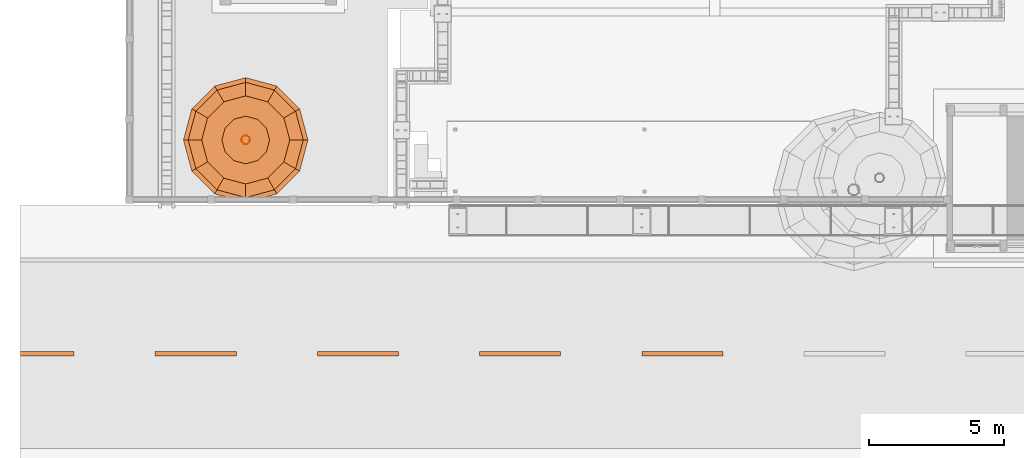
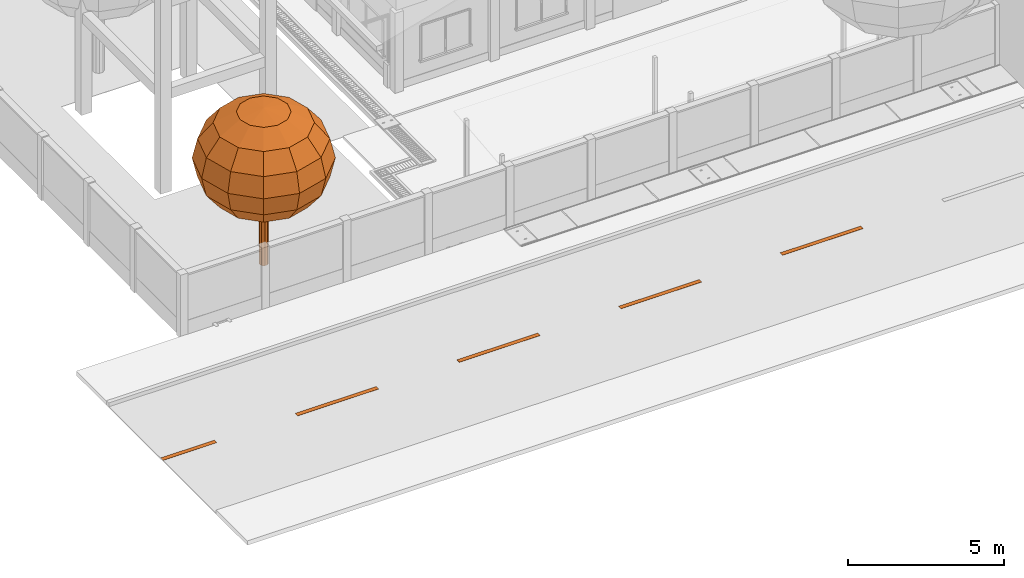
# One storey, part 145 of 166: 7 proxies.
"""IFC2X3 building model written with IfcOpenShell, lengths in metres."""

from ifc_helpers import new_model, si_unit, origin, origin_with_axes, place, context, subcontext, project, spatial, faceted_brep, element, save


model = new_model("IFC2X3")

# Units and contexts
model_context = context("Model", 3, precision=1e-05, world=origin_with_axes())
body_context = subcontext(model_context, "Body", "Model", "MODEL_VIEW")
ifc_project = project(units=[si_unit("LENGTHUNIT", "METRE"), si_unit("AREAUNIT", "SQUARE_METRE"), si_unit("VOLUMEUNIT", "CUBIC_METRE"), si_unit("PLANEANGLEUNIT", "RADIAN")], contexts=[model_context])

# Site, building, storey
site_placement = place(None, origin_with_axes())
site = spatial("IfcSite", under=ifc_project, at=site_placement, Name="Predio Los Mangos - Morales, San Martín", CompositionType="ELEMENT")
building_placement = place(site_placement, origin())
building = spatial("IfcBuilding", under=site, at=building_placement, Name="Hogar de Refugio Temporal", CompositionType="ELEMENT")
storey_placement = place(building_placement, origin())
storey = spatial("IfcBuildingStorey", under=building, at=storey_placement, Name="NIVEL 1 (NPT +0.00)", CompositionType="ELEMENT", Elevation=0.0)

# Proxies
proxy_1_placement = place(storey_placement, origin())
element("IfcBuildingElementProxy", 1, at=proxy_1_placement, inside=storey, Name="linea_carril", ObjectType="Losa deportiva y vía", context=body_context, shape_type="Brep", body=[
    faceted_brep([(-3.0, 12.22, 0.02), (-3.0, 12.38, 0.02), (-1.0, 12.38, 0.02), (-1.0, 12.22, 0.02), (-3.0, 12.22, 0.025), (-1.0, 12.22, 0.025), (-1.0, 12.38, 0.025), (-3.0, 12.38, 0.025)], [[[0, 1, 2, 3]], [[4, 5, 6, 7]], [[0, 3, 5, 4]], [[3, 2, 6, 5]], [[2, 1, 7, 6]], [[1, 0, 4, 7]]]),
])
proxy_2_placement = place(storey_placement, origin())
element("IfcBuildingElementProxy", 2, at=proxy_2_placement, inside=storey, Name="linea_carril", ObjectType="Losa deportiva y vía", context=body_context, shape_type="Brep", body=[
    faceted_brep([(2.0, 12.22, 0.02), (2.0, 12.38, 0.02), (5.0, 12.38, 0.02), (5.0, 12.22, 0.02), (2.0, 12.22, 0.025), (5.0, 12.22, 0.025), (5.0, 12.38, 0.025), (2.0, 12.38, 0.025)], [[[0, 1, 2, 3]], [[4, 5, 6, 7]], [[0, 3, 5, 4]], [[3, 2, 6, 5]], [[2, 1, 7, 6]], [[1, 0, 4, 7]]]),
])
proxy_3_placement = place(storey_placement, origin())
element("IfcBuildingElementProxy", 3, at=proxy_3_placement, inside=storey, Name="linea_carril", ObjectType="Losa deportiva y vía", context=body_context, shape_type="Brep", body=[
    faceted_brep([(8.0, 12.22, 0.02), (8.0, 12.38, 0.02), (11.0, 12.38, 0.02), (11.0, 12.22, 0.02), (8.0, 12.22, 0.025), (11.0, 12.22, 0.025), (11.0, 12.38, 0.025), (8.0, 12.38, 0.025)], [[[0, 1, 2, 3]], [[4, 5, 6, 7]], [[0, 3, 5, 4]], [[3, 2, 6, 5]], [[2, 1, 7, 6]], [[1, 0, 4, 7]]]),
])
proxy_4_placement = place(storey_placement, origin())
element("IfcBuildingElementProxy", 4, at=proxy_4_placement, inside=storey, Name="linea_carril", ObjectType="Losa deportiva y vía", context=body_context, shape_type="Brep", body=[
    faceted_brep([(14.0, 12.22, 0.02), (14.0, 12.38, 0.02), (17.0, 12.38, 0.02), (17.0, 12.22, 0.02), (14.0, 12.22, 0.025), (17.0, 12.22, 0.025), (17.0, 12.38, 0.025), (14.0, 12.38, 0.025)], [[[0, 1, 2, 3]], [[4, 5, 6, 7]], [[0, 3, 5, 4]], [[3, 2, 6, 5]], [[2, 1, 7, 6]], [[1, 0, 4, 7]]]),
])
proxy_5_placement = place(storey_placement, origin())
element("IfcBuildingElementProxy", 5, at=proxy_5_placement, inside=storey, Name="linea_carril", ObjectType="Losa deportiva y vía", context=body_context, shape_type="Brep", body=[
    faceted_brep([(20.0, 12.22, 0.02), (20.0, 12.38, 0.02), (23.0, 12.38, 0.02), (23.0, 12.22, 0.02), (20.0, 12.22, 0.025), (23.0, 12.22, 0.025), (23.0, 12.38, 0.025), (20.0, 12.38, 0.025)], [[[0, 1, 2, 3]], [[4, 5, 6, 7]], [[0, 3, 5, 4]], [[3, 2, 6, 5]], [[2, 1, 7, 6]], [[1, 0, 4, 7]]]),
])
proxy_6_placement = place(storey_placement, origin())
element("IfcBuildingElementProxy", 6, at=proxy_6_placement, inside=storey, Name="arbol_tronco", ObjectType="Árbol", context=body_context, shape_type="Brep", body=[
    faceted_brep([(5.5103, 20.21, 0.0), (5.4797, 20.3042, 0.0), (5.4797, 20.3042, 2.4048), (5.3995, 20.3625, 0.0), (5.3995, 20.3625, 2.4048), (5.3005, 20.3625, 0.0), (5.3005, 20.3625, 2.4048), (5.2203, 20.3042, 0.0), (5.2203, 20.3042, 2.4048), (5.1897, 20.21, 0.0), (5.1897, 20.21, 2.4048), (5.2203, 20.1158, 0.0), (5.2203, 20.1158, 2.4048), (5.3005, 20.0575, 0.0), (5.3005, 20.0575, 2.4048), (5.3995, 20.0575, 0.0), (5.3995, 20.0575, 2.4048), (5.4797, 20.1158, 0.0), (5.4797, 20.1158, 2.4048), (5.5103, 20.21, 2.4048)], [[[0, 1, 2]], [[1, 3, 4]], [[3, 5, 6]], [[5, 7, 8]], [[7, 9, 10]], [[9, 11, 12]], [[11, 13, 14]], [[13, 15, 16]], [[15, 17, 18]], [[17, 0, 19]], [[0, 2, 19]], [[1, 4, 2]], [[3, 6, 4]], [[5, 8, 6]], [[7, 10, 8]], [[9, 12, 10]], [[11, 14, 12]], [[13, 16, 14]], [[15, 18, 16]], [[17, 19, 18]]]),
])
proxy_7_placement = place(storey_placement, origin())
element("IfcBuildingElementProxy", 7, at=proxy_7_placement, inside=storey, Name="arbol_copa", ObjectType="Árbol", context=body_context, shape_type="Brep", body=[
    faceted_brep([(5.35, 20.21, 6.0922), (5.35, 20.21, 6.0922), (6.1138, 20.651, 5.9431), (6.2319, 20.21, 5.9431), (5.35, 20.21, 6.0922), (5.791, 20.9738, 5.9431), (5.35, 20.21, 6.0922), (5.35, 21.0919, 5.9431), (5.35, 20.21, 6.0922), (4.909, 20.9738, 5.9431), (5.35, 20.21, 6.0922), (4.5862, 20.651, 5.9431), (5.35, 20.21, 6.0922), (4.4681, 20.21, 5.9431), (5.35, 20.21, 6.0922), (4.5862, 19.769, 5.9431), (5.35, 20.21, 6.0922), (4.909, 19.4462, 5.9431), (5.35, 20.21, 6.0922), (5.35, 19.3281, 5.9431), (5.35, 20.21, 6.0922), (5.791, 19.4462, 5.9431), (5.35, 20.21, 6.0922), (6.1138, 19.769, 5.9431), (6.7613, 21.0248, 5.5185), (6.9796, 20.21, 5.5185), (6.1648, 21.6213, 5.5185), (5.35, 21.8396, 5.5185), (4.5352, 21.6213, 5.5185), (3.9387, 21.0248, 5.5185), (3.7204, 20.21, 5.5185), (3.9387, 19.3952, 5.5185), (4.5352, 18.7987, 5.5185), (5.35, 18.5804, 5.5185), (6.1648, 18.7987, 5.5185), (6.7613, 19.3952, 5.5185), (7.1939, 21.2746, 4.8829), (7.4792, 20.21, 4.8829), (6.4146, 22.0539, 4.8829), (5.35, 22.3392, 4.8829), (4.2854, 22.0539, 4.8829), (3.5061, 21.2746, 4.8829), (3.2208, 20.21, 4.8829), (3.5061, 19.1454, 4.8829), (4.2854, 18.3661, 4.8829), (5.35, 18.0808, 4.8829), (6.4146, 18.3661, 4.8829), (7.1939, 19.1454, 4.8829), (7.3459, 21.3623, 4.1333), (7.6546, 20.21, 4.1333), (6.5023, 22.2059, 4.1333), (5.35, 22.5146, 4.1333), (4.1977, 22.2059, 4.1333), (3.3541, 21.3623, 4.1333), (3.0454, 20.21, 4.1333), (3.3541, 19.0577, 4.1333), (4.1977, 18.2141, 4.1333), (5.35, 17.9054, 4.1333), (6.5023, 18.2141, 4.1333), (7.3459, 19.0577, 4.1333), (7.1939, 21.2746, 3.3836), (7.4792, 20.21, 3.3836), (6.4146, 22.0539, 3.3836), (5.35, 22.3392, 3.3836), (4.2854, 22.0539, 3.3836), (3.5061, 21.2746, 3.3836), (3.2208, 20.21, 3.3836), (3.5061, 19.1454, 3.3836), (4.2854, 18.3661, 3.3836), (5.35, 18.0808, 3.3836), (6.4146, 18.3661, 3.3836), (7.1939, 19.1454, 3.3836), (6.7613, 21.0248, 2.7481), (6.9796, 20.21, 2.7481), (6.1648, 21.6213, 2.7481), (5.35, 21.8396, 2.7481), (4.5352, 21.6213, 2.7481), (3.9387, 21.0248, 2.7481), (3.7204, 20.21, 2.7481), (3.9387, 19.3952, 2.7481), (4.5352, 18.7987, 2.7481), (5.35, 18.5804, 2.7481), (6.1648, 18.7987, 2.7481), (6.7613, 19.3952, 2.7481), (6.1138, 20.651, 2.3235), (6.2319, 20.21, 2.3235), (5.791, 20.9738, 2.3235), (5.35, 21.0919, 2.3235), (4.909, 20.9738, 2.3235), (4.5862, 20.651, 2.3235), (4.4681, 20.21, 2.3235), (4.5862, 19.769, 2.3235), (4.909, 19.4462, 2.3235), (5.35, 19.3281, 2.3235), (5.791, 19.4462, 2.3235), (6.1138, 19.769, 2.3235), (5.35, 20.21, 2.1744), (5.35, 20.21, 2.1744), (5.35, 20.21, 2.1744), (5.35, 20.21, 2.1744), (5.35, 20.21, 2.1744), (5.35, 20.21, 2.1744), (5.35, 20.21, 2.1744), (5.35, 20.21, 2.1744), (5.35, 20.21, 2.1744), (5.35, 20.21, 2.1744), (5.35, 20.21, 2.1744), (5.35, 20.21, 2.1744)], [[[0, 1, 2]], [[0, 2, 3]], [[1, 4, 5]], [[1, 5, 2]], [[4, 6, 7]], [[4, 7, 5]], [[6, 8, 9]], [[6, 9, 7]], [[8, 10, 11]], [[8, 11, 9]], [[10, 12, 13]], [[10, 13, 11]], [[12, 14, 15]], [[12, 15, 13]], [[14, 16, 17]], [[14, 17, 15]], [[16, 18, 19]], [[16, 19, 17]], [[18, 20, 21]], [[18, 21, 19]], [[20, 22, 23]], [[20, 23, 21]], [[22, 0, 3]], [[22, 3, 23]], [[3, 2, 24]], [[3, 24, 25]], [[2, 5, 26]], [[2, 26, 24]], [[5, 7, 27]], [[5, 27, 26]], [[7, 9, 28]], [[7, 28, 27]], [[9, 11, 29]], [[9, 29, 28]], [[11, 13, 30]], [[11, 30, 29]], [[13, 15, 31]], [[13, 31, 30]], [[15, 17, 32]], [[15, 32, 31]], [[17, 19, 33]], [[17, 33, 32]], [[19, 21, 34]], [[19, 34, 33]], [[21, 23, 35]], [[21, 35, 34]], [[23, 3, 25]], [[23, 25, 35]], [[25, 24, 36]], [[25, 36, 37]], [[24, 26, 38]], [[24, 38, 36]], [[26, 27, 39]], [[26, 39, 38]], [[27, 28, 40]], [[27, 40, 39]], [[28, 29, 41]], [[28, 41, 40]], [[29, 30, 42]], [[29, 42, 41]], [[30, 31, 43]], [[30, 43, 42]], [[31, 32, 44]], [[31, 44, 43]], [[32, 33, 45]], [[32, 45, 44]], [[33, 34, 46]], [[33, 46, 45]], [[34, 35, 47]], [[34, 47, 46]], [[35, 25, 37]], [[35, 37, 47]], [[37, 36, 48]], [[37, 48, 49]], [[36, 38, 50]], [[36, 50, 48]], [[38, 39, 51]], [[38, 51, 50]], [[39, 40, 52]], [[39, 52, 51]], [[40, 41, 53]], [[40, 53, 52]], [[41, 42, 54]], [[41, 54, 53]], [[42, 43, 55]], [[42, 55, 54]], [[43, 44, 56]], [[43, 56, 55]], [[44, 45, 57]], [[44, 57, 56]], [[45, 46, 58]], [[45, 58, 57]], [[46, 47, 59]], [[46, 59, 58]], [[47, 37, 49]], [[47, 49, 59]], [[49, 48, 60]], [[49, 60, 61]], [[48, 50, 62]], [[48, 62, 60]], [[50, 51, 63]], [[50, 63, 62]], [[51, 52, 64]], [[51, 64, 63]], [[52, 53, 65]], [[52, 65, 64]], [[53, 54, 66]], [[53, 66, 65]], [[54, 55, 67]], [[54, 67, 66]], [[55, 56, 68]], [[55, 68, 67]], [[56, 57, 69]], [[56, 69, 68]], [[57, 58, 70]], [[57, 70, 69]], [[58, 59, 71]], [[58, 71, 70]], [[59, 49, 61]], [[59, 61, 71]], [[61, 60, 72]], [[61, 72, 73]], [[60, 62, 74]], [[60, 74, 72]], [[62, 63, 75]], [[62, 75, 74]], [[63, 64, 76]], [[63, 76, 75]], [[64, 65, 77]], [[64, 77, 76]], [[65, 66, 78]], [[65, 78, 77]], [[66, 67, 79]], [[66, 79, 78]], [[67, 68, 80]], [[67, 80, 79]], [[68, 69, 81]], [[68, 81, 80]], [[69, 70, 82]], [[69, 82, 81]], [[70, 71, 83]], [[70, 83, 82]], [[71, 61, 73]], [[71, 73, 83]], [[73, 72, 84]], [[73, 84, 85]], [[72, 74, 86]], [[72, 86, 84]], [[74, 75, 87]], [[74, 87, 86]], [[75, 76, 88]], [[75, 88, 87]], [[76, 77, 89]], [[76, 89, 88]], [[77, 78, 90]], [[77, 90, 89]], [[78, 79, 91]], [[78, 91, 90]], [[79, 80, 92]], [[79, 92, 91]], [[80, 81, 93]], [[80, 93, 92]], [[81, 82, 94]], [[81, 94, 93]], [[82, 83, 95]], [[82, 95, 94]], [[83, 73, 85]], [[83, 85, 95]], [[85, 84, 96]], [[85, 96, 97]], [[84, 86, 98]], [[84, 98, 96]], [[86, 87, 99]], [[86, 99, 98]], [[87, 88, 100]], [[87, 100, 99]], [[88, 89, 101]], [[88, 101, 100]], [[89, 90, 102]], [[89, 102, 101]], [[90, 91, 103]], [[90, 103, 102]], [[91, 92, 104]], [[91, 104, 103]], [[92, 93, 105]], [[92, 105, 104]], [[93, 94, 106]], [[93, 106, 105]], [[94, 95, 107]], [[94, 107, 106]], [[95, 85, 97]], [[95, 97, 107]]]),
])

save(model, "model.ifc")
